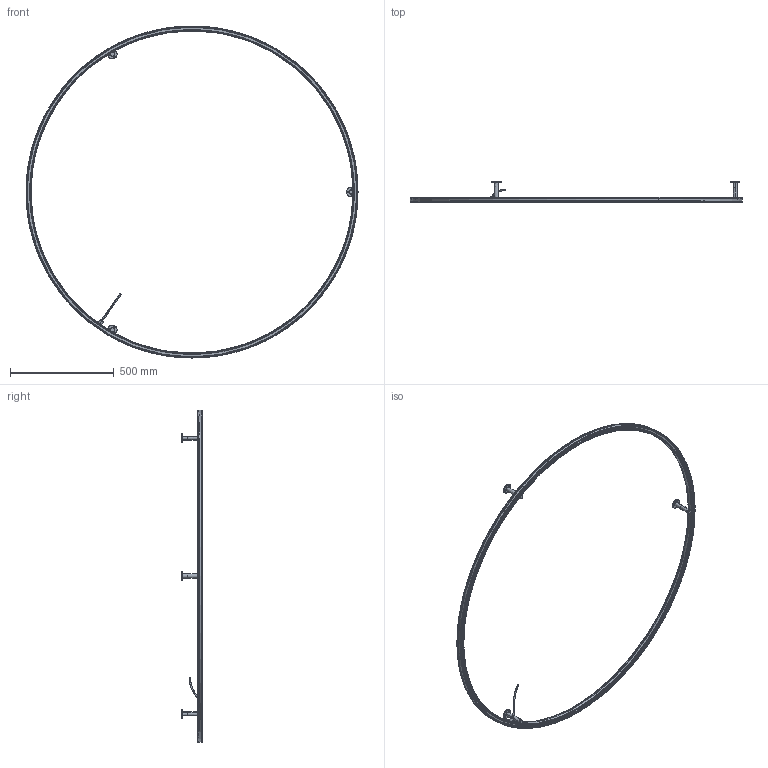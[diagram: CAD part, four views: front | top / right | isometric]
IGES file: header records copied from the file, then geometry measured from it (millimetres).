
Start section: SolidWorks IGES file using analytic representation for surfaces
Global section: file name: \\STORAGE\Tecnico Condiviso\1 FASCICOLI TECNICI\LIGHTECTURE\LIG008-U LIGHT\CE\PLULA160LED\PLUL1160LEDXXXX-PER 3D.IGS; native system: SolidWorks 2024; preprocessor: SolidWorks 2024; author: tecnico3; date: 240528.192447; units: millimetre
Bounding box: 1600 x 100 x 1600 mm (x, y, z)
Surface area: 799857.2 mm2 (no closed solid volume)
Topology: 0 solids, 0 shells, 358 faces, 5900 edges, 5894 vertices
Faces by surface type: revolution 201, bspline 157
